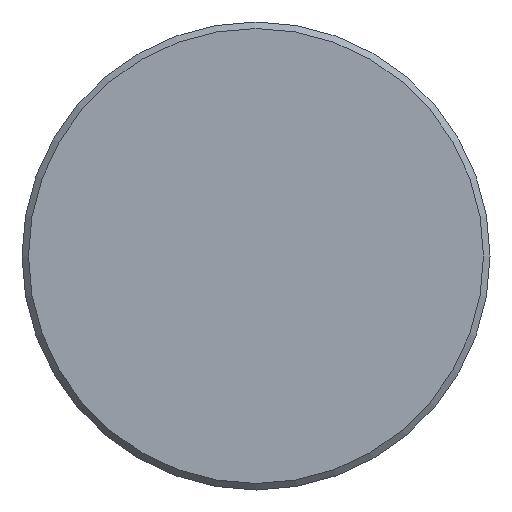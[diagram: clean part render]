
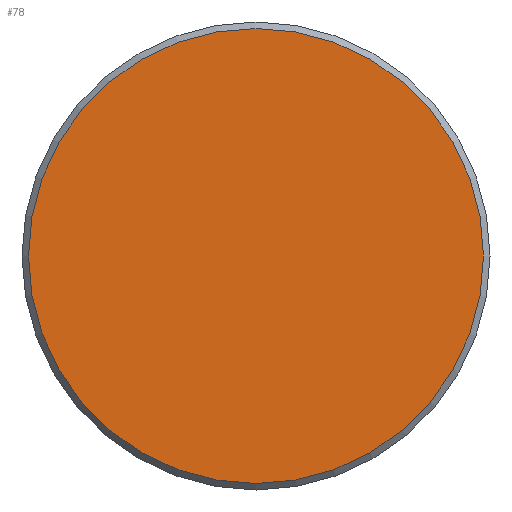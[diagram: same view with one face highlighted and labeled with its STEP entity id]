
A CAD part, front view. The second image highlights one B-rep face of the part: STEP entity #78.
In plain terms, the highlighted planar face has unit normal (0, -1, 0).
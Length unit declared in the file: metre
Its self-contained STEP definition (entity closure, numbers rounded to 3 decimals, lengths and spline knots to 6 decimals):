
#78 = ADVANCED_FACE( '', ( #107 ), #108, .T. );
#107 = FACE_OUTER_BOUND( '', #180, .T. );
#108 = PLANE( '', #181 );
#180 = EDGE_LOOP( '', ( #255 ) );
#181 = AXIS2_PLACEMENT_3D( '', #256, #257, #258 );
#255 = ORIENTED_EDGE( '', *, *, #375, .T. );
#256 = CARTESIAN_POINT( '', ( 0., 0., 0. ) );
#257 = DIRECTION( '', ( 0., -1., 0. ) );
#258 = DIRECTION( '', ( 0., 0., -1. ) );
#375 = EDGE_CURVE( '', #401, #401, #402, .T. );
#401 = VERTEX_POINT( '', #449 );
#402 = CIRCLE( '', #450, 0.0175 );
#449 = CARTESIAN_POINT( '', ( 0., 0., -0.0175 ) );
#450 = AXIS2_PLACEMENT_3D( '', #499, #500, #501 );
#499 = CARTESIAN_POINT( '', ( 0., 0., 0. ) );
#500 = DIRECTION( '', ( 0., -1., 0. ) );
#501 = DIRECTION( '', ( 0., 0., -1. ) );
